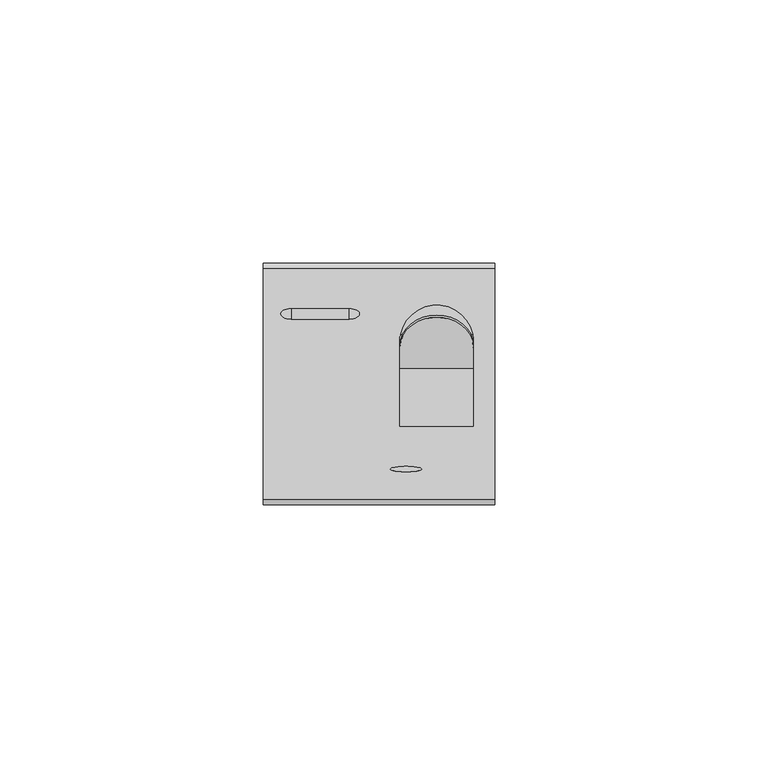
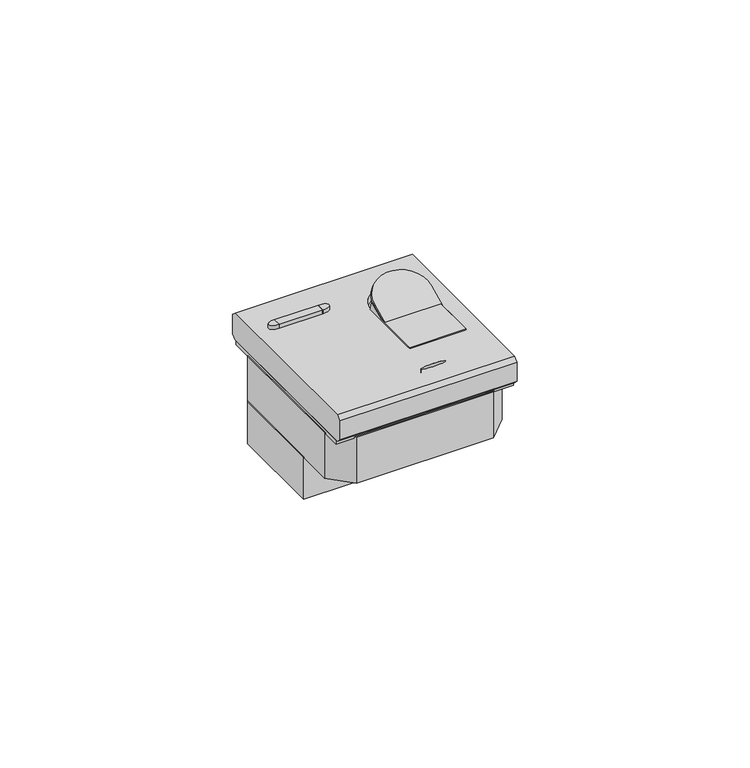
"""IFC4 building model written with IfcOpenShell, lengths in millimetres: proxy geometry, L4305 LI magnetotermico 1P+N : L4305-10 LI magnetotermico 1P+N 10A 10mA."""

from ifc_helpers import new_model, si_unit, point, frame, origin, origin_with_axes, place, context, project, spatial, polyline, circle_curve, ellipse_curve, trimmed, outline, extrude, source, transform, mapped, element, save
from ifc_brep_helpers import plane_surface, revolved_surface, extruded_surface, advanced_brep


def electrical_fixtures_0505fb7d(model_context):
    return source(origin(), model_context, "Body", "SolidModel", [
        advanced_brep(
        [(-5.6568016, 14.3352576, 9.0), (-5.6568016, 12.3352576, 9.0), (-5.6568016, 14.3352576, 7.979899), (-5.6568016, 12.3352576, 7.979899)],
        [
            (0, 1),
            (1, 0, ellipse_curve(frame((-5.6568016, 13.3352576, 9.0), z_axis=(0.0, 0.0, 1.0), x_axis=(1.0, 0.0, 0.0)), 2.0, 1.0)),
            (2, 3, ellipse_curve(frame((-5.6568016, 13.3352576, 7.979899), z_axis=(0.0, 0.0, -1.0), x_axis=(0.0, -1.0, 0.0)), 1.0, 2.0)),
            (3, 2),
            (0, 2),
            (3, 1),
        ],
        [
            plane_surface(frame((-5.6568016, 12.3352576, 9.0), z_axis=(0.0, 0.0, 1.0), x_axis=(0.0, -1.0, 0.0))),
            plane_surface(frame((-5.6568016, 12.3352576, 7.979899), z_axis=(0.0, 0.0, -1.0), x_axis=(0.0, 1.0, 0.0))),
            plane_surface(frame((-5.6568016, 14.3352576, 9.0), z_axis=(-1.0, 0.0, 0.0), x_axis=(0.0, 0.0, -1.0))),
            extruded_surface(trimmed(ellipse_curve(frame((-5.6568016, 13.3352576, 6.959798), z_axis=(0.0, 0.0, 1.0), x_axis=(0.0, -1.0, 0.0)), 1.0, 2.0), [point((-5.6568016, 12.3352576, 6.959798))], [point((-5.6568016, 14.3352576, 6.959798))], True, "CARTESIAN"), (0.0, 0.0, 1.0201009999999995), 1.0201009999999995),
        ],
        [
            (0, [[1, 2]]),
            (1, [[3, 4]]),
            (2, [[-1, 5, -4, 6]]),
            (3, [[-2, -6, -3, -5]]),
        ],
    ),
        advanced_brep(
        [(-16.6568016, 14.3352576, 9.0), (-16.6568016, 12.3352576, 9.0), (-16.6568016, 14.3352576, 7.979899), (-16.6568016, 12.3352576, 7.979899)],
        [
            (0, 1, ellipse_curve(frame((-16.6568016, 13.3352576, 9.0), z_axis=(0.0, 0.0, 1.0), x_axis=(1.0, 0.0, 0.0)), 2.0, 1.0)),
            (1, 0),
            (2, 3),
            (3, 2, ellipse_curve(frame((-16.6568016, 13.3352576, 7.979899), z_axis=(0.0, 0.0, -1.0), x_axis=(0.0, -1.0, 0.0)), 1.0, 2.0)),
            (0, 2),
            (3, 1),
        ],
        [
            plane_surface(frame((-16.6568016, 12.3352576, 9.0), z_axis=(0.0, 0.0, 1.0), x_axis=(1.0, 0.0, 0.0))),
            plane_surface(frame((-16.6568016, 12.3352576, 7.979899), z_axis=(0.0, 0.0, -1.0), x_axis=(-1.0, 0.0, 0.0))),
            extruded_surface(trimmed(ellipse_curve(frame((-16.6568016, 13.3352576, 6.959798), z_axis=(0.0, 0.0, 1.0), x_axis=(0.0, -1.0, 0.0)), 1.0, 2.0), [point((-16.6568016, 14.3352576, 6.959798))], [point((-16.6568016, 12.3352576, 6.959798))], True, "CARTESIAN"), (0.0, 0.0, 1.0201009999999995), 1.0201009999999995),
            plane_surface(frame((-16.6568016, 12.3352576, 9.0), z_axis=(1.0, 0.0, 0.0), x_axis=(0.0, 0.0, -1.0))),
        ],
        [
            (0, [[1, 2]]),
            (1, [[3, 4]]),
            (2, [[-1, 5, -4, 6]]),
            (3, [[-2, -6, -3, -5]]),
        ],
    ),
        extrude(outline(polyline([(-5.6568016, 12.3352576), (-16.6568016, 12.3352576), (-16.6568016, 14.3352576), (-5.6568016, 14.3352576), (-5.6568016, 12.3352576)])), frame((0.0, 0.0, 7.979899), z_axis=(0.0, 0.0, 1.0), x_axis=(1.0, 0.0, 0.0)), (0.0, 0.0, 1.0), 1.020101),
        extrude(outline(polyline([(4.2459071, 7.979899), (8.3339056, 9.886164), (9.3920425, 6.0), (-8.0, 6.0), (-8.0, 7.979899), (4.2459071, 7.979899)])), frame((4.0, 0.0, 0.0), z_axis=(1.0, 0.0, 0.0), x_axis=(0.0, 1.0, 0.0)), (0.0, 0.0, 1.0), 14.0),
        advanced_brep(
        [(4.0, 1.9050993, 7.9917403), (18.0, 1.9050993, 7.9917403), (18.0, 6.9068775, 10.3241078), (4.0, 6.9068775, 10.3241078), (4.0, 2.3277175, 7.0854325), (4.0, 7.3294957, 9.4178), (18.0, 7.3294957, 9.4178), (18.0, 2.3277175, 7.0854325)],
        [
            (0, 1),
            (1, 2),
            (2, 3, ellipse_curve(frame((11.0, 6.9068775, 10.3241078), z_axis=(0.0, -0.42261826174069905, 0.9063077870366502), x_axis=(1.0, 0.0, 0.0)), 7.0, 6.3441545)),
            (3, 0),
            (4, 5),
            (5, 6, ellipse_curve(frame((11.0, 7.3294957, 9.4178), z_axis=(0.0, 0.42261826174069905, -0.9063077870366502), x_axis=(1.0, 0.0, 0.0)), 7.0, 6.3441545)),
            (6, 7),
            (7, 4),
            (0, 4),
            (7, 1),
            (6, 2),
            (5, 3),
        ],
        [
            plane_surface(frame((-18.0, 1.9050993, 7.9917403), z_axis=(0.0, -0.42261826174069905, 0.9063077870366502), x_axis=(1.0, 0.0, 0.0))),
            plane_surface(frame((-18.0, 2.3277175, 7.0854325), z_axis=(0.0, 0.42261826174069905, -0.9063077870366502), x_axis=(-1.0, 0.0, 0.0))),
            plane_surface(frame((4.0, 1.9050993, 7.9917403), z_axis=(0.0, -0.9063077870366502, -0.422618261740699), x_axis=(0.0, 0.422618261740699, -0.9063077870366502))),
            plane_surface(frame((18.0, 1.9050993, 7.9917403), z_axis=(1.0, 0.0, 0.0), x_axis=(0.0, 0.422618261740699, -0.9063077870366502))),
            extruded_surface(trimmed(ellipse_curve(frame((11.0, 7.752114, 8.5114922), z_axis=(0.0, -0.42261826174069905, 0.9063077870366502), x_axis=(1.0, 0.0, 0.0)), 7.0, 6.3441545), [point((18.0, 7.752114, 8.5114922))], [point((4.0, 7.752114, 8.5114922))], True, "CARTESIAN"), (0.0, -0.4226182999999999, 0.9063078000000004), 1.000000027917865),
            plane_surface(frame((4.0, 6.9068775, 10.3241078), z_axis=(-1.0000000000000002, 0.0, 0.0), x_axis=(0.0, 0.42261826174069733, -0.906307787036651))),
        ],
        [
            (0, [[1, 2, 3, 4]]),
            (1, [[5, 6, 7, 8]]),
            (2, [[-1, 9, -8, 10]]),
            (3, [[-2, -10, -7, 11]]),
            (4, [[-3, -11, -6, 12]]),
            (5, [[-4, -12, -5, -9]]),
        ],
    ),
        advanced_brep(
        [(22.0, -22.0, 1.0), (22.0, 22.0, 1.0), (22.0, 22.9899495, 1.9899495), (22.0, 22.9899495, 6.9899495), (22.0, 22.0, 7.979899), (22.0, -22.0, 7.979899), (22.0, -22.9899495, 6.9899495), (22.0, -22.9899495, 1.9899495), (-22.0, -22.0, 1.0), (-22.0, -22.9899495, 1.9899495), (-22.0, -22.9899495, 6.9899495), (-22.0, -22.0, 7.979899), (-22.0, 22.0, 7.979899), (-22.0, 22.9899495, 6.9899495), (-22.0, 22.9899495, 1.9899495), (-22.0, 22.0, 1.0), (18.0, 8.0, 7.979899), (18.0, -8.0, 7.979899), (4.0, -8.0, 7.979899), (4.0, 8.0, 7.979899), (2.1839026, -16.1699419, 7.979899), (8.1839026, -16.1699419, 7.979899), (18.0, -8.0, 6.0), (18.0, 8.0, 6.0), (4.0, 8.0, 6.0), (4.0, -8.0, 6.0), (8.1839026, -16.1699419, 7.0), (2.1839026, -16.1699419, 7.0)],
        [
            (0, 1),
            (1, 2),
            (2, 3),
            (3, 4),
            (4, 5),
            (5, 6),
            (6, 7),
            (7, 0),
            (8, 9),
            (9, 10),
            (10, 11),
            (11, 12),
            (12, 13),
            (13, 14),
            (14, 15),
            (15, 8),
            (0, 8),
            (15, 1),
            (5, 11),
            (10, 6),
            (9, 7),
            (14, 2),
            (13, 3),
            (12, 4),
            (16, 17),
            (17, 18),
            (18, 19),
            (19, 16, circle_curve(frame((11.0, 8.0, 7.979899), z_axis=(0.0, 0.0, -1.0), x_axis=(1.0, 0.0, 0.0)), 7.0)),
            (20, 21, ellipse_curve(frame((5.1839026, -16.1699419, 7.979899), z_axis=(0.0, 0.0, -1.0), x_axis=(-1.0, 0.0, 0.0)), 3.0, 0.5)),
            (21, 20, ellipse_curve(frame((5.1839026, -16.1699419, 7.979899), z_axis=(0.0, 0.0, -1.0), x_axis=(-1.0, 0.0, 0.0)), 3.0, 0.5)),
            (22, 23),
            (23, 24, circle_curve(frame((11.0, 8.0, 6.0), z_axis=(0.0, 0.0, 1.0), x_axis=(1.0, 0.0, 0.0)), 7.0)),
            (24, 25),
            (25, 22),
            (22, 17),
            (16, 23),
            (19, 24),
            (18, 25),
            (26, 27, ellipse_curve(frame((5.1839026, -16.1699419, 7.0), z_axis=(0.0, 0.0, 1.0), x_axis=(-1.0, 0.0, 0.0)), 3.0, 0.5)),
            (27, 26, ellipse_curve(frame((5.1839026, -16.1699419, 7.0), z_axis=(0.0, 0.0, 1.0), x_axis=(-1.0, 0.0, 0.0)), 3.0, 0.5)),
            (26, 21),
            (20, 27),
        ],
        [
            plane_surface(frame((22.0, 0.0, 1.0), z_axis=(1.0, 0.0, 0.0), x_axis=(0.0, 1.0, 0.0))),
            plane_surface(frame((-22.0, 0.0, 1.0), z_axis=(-1.0, 0.0, 0.0), x_axis=(0.0, -1.0, 0.0))),
            plane_surface(frame((22.0, -22.0, 1.0), z_axis=(0.0, 0.0, -1.0), x_axis=(-1.0, 0.0, 0.0))),
            plane_surface(frame((22.0, -22.0, 7.979899), z_axis=(0.0, -0.7071067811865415, 0.7071067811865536), x_axis=(-1.0, 0.0, 0.0))),
            plane_surface(frame((22.0, -22.9899495, 6.9899495), z_axis=(0.0, -1.0, 0.0), x_axis=(-1.0, 0.0, 0.0))),
            plane_surface(frame((22.0, -22.9899495, 1.9899495), z_axis=(0.0, -0.707106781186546, -0.707106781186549), x_axis=(-1.0, 0.0, 0.0))),
            plane_surface(frame((22.0, 22.0, 1.0), z_axis=(0.0, 0.7071067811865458, -0.7071067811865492), x_axis=(-1.0, 0.0, 0.0))),
            plane_surface(frame((22.0, 22.9899495, 1.9899495), z_axis=(0.0, 1.0, 0.0), x_axis=(-1.0, 0.0, 0.0))),
            plane_surface(frame((22.0, 22.9899495, 6.9899495), z_axis=(0.0, 0.7071067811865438, 0.7071067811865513), x_axis=(-1.0, 0.0, 0.0))),
            plane_surface(frame((22.0, 22.0, 7.979899), z_axis=(0.0, 0.0, 1.0), x_axis=(-1.0, 0.0, 0.0))),
            plane_surface(frame((18.0, -8.0, 6.0), z_axis=(0.0, 0.0, 1.0), x_axis=(0.0, -1.0, 0.0))),
            plane_surface(frame((18.0, -8.0, 7.979899), z_axis=(-1.0, 0.0, 0.0), x_axis=(0.0, 0.0, -1.0))),
            revolved_surface(polyline([(18.0, 8.0, 7.979899), (18.0, 8.0, 6.0)]), (11.0, 8.0, 6.0), (0.0, 0.0, 1.0)),
            plane_surface(frame((4.0, 8.0, 7.979899), z_axis=(1.0, 0.0, 0.0), x_axis=(0.0, 0.0, -1.0))),
            plane_surface(frame((4.0, -8.0, 7.979899), z_axis=(0.0, 1.0, 0.0), x_axis=(0.0, 0.0, -1.0))),
            plane_surface(frame((2.1839026, -16.1699419, 7.0), z_axis=(0.0, 0.0, 1.0), x_axis=(0.0, 1.0, 0.0))),
            extruded_surface(trimmed(ellipse_curve(frame((5.1839026, -16.1699419, 7.0), z_axis=(0.0, 0.0, 1.0), x_axis=(-1.0, 0.0, 0.0)), 3.0, 0.5), [point((8.1839026, -16.1699419, 7.0))], [point((2.1839026, -16.1699419, 7.0))], True, "CARTESIAN"), (0.0, 0.0, -0.9798989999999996), 0.9798989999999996),
            extruded_surface(trimmed(ellipse_curve(frame((5.1839026, -16.1699419, 7.0), z_axis=(0.0, 0.0, 1.0), x_axis=(-1.0, 0.0, 0.0)), 3.0, 0.5), [point((2.1839026, -16.1699419, 7.0))], [point((8.1839026, -16.1699419, 7.0))], True, "CARTESIAN"), (0.0, 0.0, -0.9798989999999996), 0.9798989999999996),
        ],
        [
            (0, [[1, 2, 3, 4, 5, 6, 7, 8]]),
            (1, [[9, 10, 11, 12, 13, 14, 15, 16]]),
            (2, [[-1, 17, -16, 18]]),
            (3, [[-6, 19, -11, 20]]),
            (4, [[-7, -20, -10, 21]]),
            (5, [[-8, -21, -9, -17]]),
            (6, [[-2, -18, -15, 22]]),
            (7, [[-3, -22, -14, 23]]),
            (8, [[-4, -23, -13, 24]]),
            (9, [[-5, -24, -12, -19], [25, 26, 27, 28], [29, 30]]),
            (10, [[31, 32, 33, 34]]),
            (11, [[-31, 35, -25, 36]]),
            (12, [[-32, -36, -28, 37]]),
            (13, [[-33, -37, -27, 38]]),
            (14, [[-34, -38, -26, -35]]),
            (15, [[39, 40]]),
            (16, [[-39, 41, -29, 42]]),
            (17, [[-40, -42, -30, -41]]),
        ],
    ),
        extrude(outline(polyline([(-22.0, -7.5), (-22.0, 16.5), (-20.0, 18.5), (20.0, 18.5), (22.0, 16.5), (22.0, -7.5), (-22.0, -7.5)])), frame((0.0, 0.0, -23.0), z_axis=(0.0, 0.0, 1.0), x_axis=(1.0, 0.0, 0.0)), (0.0, 0.0, 1.0), 11.0),
        extrude(outline(polyline([(22.0, -16.5), (17.0, -21.5), (-17.0, -21.5), (-22.0, -16.5), (-22.0, 16.5), (-17.0, 21.5), (17.0, 21.5), (22.0, 16.5), (22.0, -16.5)])), frame((0.0, 0.0, -12.0), z_axis=(0.0, 0.0, 1.0), x_axis=(1.0, 0.0, 0.0)), (0.0, 0.0, 1.0), 12.0),
        extrude(outline(polyline([(22.0, -21.5), (-22.0, -21.5), (-22.0, 21.5), (22.0, 21.5), (22.0, -21.5)])), origin_with_axes(), (0.0, 0.0, 1.0), 1.0),
    ])


if __name__ == "__main__":
    model = new_model("IFC4")
    model_context = context("Model", 3, world=origin())
    ifc_project = project(units=[si_unit("LENGTHUNIT", "METRE", prefix="MILLI")], contexts=[model_context])
    site = spatial("IfcSite", under=ifc_project)
    building = spatial("IfcBuilding", under=site)
    placement = place(None, origin())
    electrical_fixtures_shape = electrical_fixtures_0505fb7d(model_context)
    element("IfcBuildingElementProxy", 1, Name="L4305 LI magnetotermico 1P+N : L4305-10 LI magnetotermico 1P+N 10A 10mA", ObjectType="L4305 LI magnetotermico 1P+N : L4305-10 LI magnetotermico 1P+N 10A 10mA", at=placement, inside=building, context=model_context, shape_type="MappedRepresentation", body=[
        mapped(electrical_fixtures_shape, transform((0.0, 0.0, 0.0), x_axis=(1.0, 0.0, 0.0), y_axis=(0.0, 1.0, 0.0), z_axis=(0.0, 0.0, 1.0))),
    ])
    save(model, "model.ifc")
